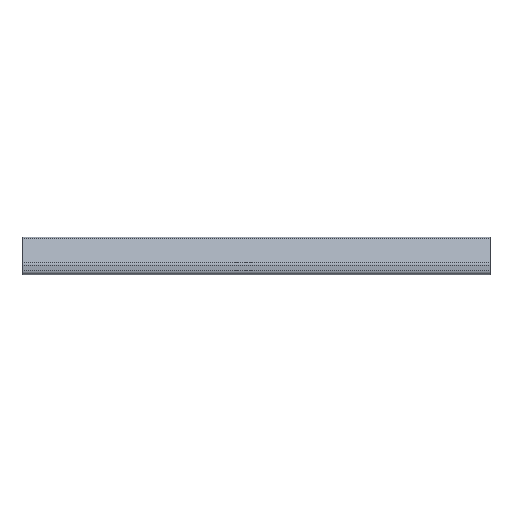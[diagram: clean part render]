
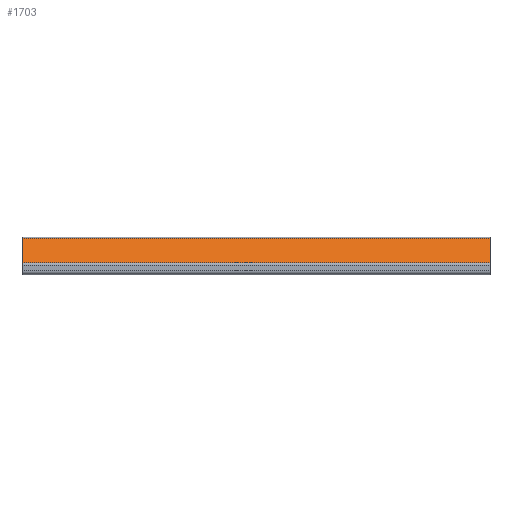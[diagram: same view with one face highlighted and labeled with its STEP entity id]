
A CAD part, top view. The second image highlights one B-rep face of the part: STEP entity #1703.
In plain terms, the highlighted planar face has unit normal (0, 0.707, 0.707).
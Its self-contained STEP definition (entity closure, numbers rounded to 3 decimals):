
#71 = LINE ( 'NONE', #1402, #1827 ) ;
#98 = EDGE_CURVE ( 'NONE', #1337, #2118, #718, .T. ) ;
#115 = EDGE_CURVE ( 'NONE', #1597, #1337, #71, .T. ) ;
#221 = ORIENTED_EDGE ( 'NONE', *, *, #98, .F. ) ;
#226 = EDGE_LOOP ( 'NONE', ( #1943, #221, #482, #2066 ) ) ;
#253 = CARTESIAN_POINT ( 'NONE',  ( 2000., -7.148, 4518.828 ) ) ;
#259 = LINE ( 'NONE', #1604, #1687 ) ;
#293 = CARTESIAN_POINT ( 'NONE',  ( 2000., 18.828, 4492.852 ) ) ;
#388 = DIRECTION ( 'NONE',  ( 0., 0.707, -0.707 ) ) ;
#428 = EDGE_CURVE ( 'NONE', #1597, #751, #506, .T. ) ;
#482 = ORIENTED_EDGE ( 'NONE', *, *, #115, .F. ) ;
#506 = LINE ( 'NONE', #684, #1696 ) ;
#554 = DIRECTION ( 'NONE',  ( 0., -0.707, -0.707 ) ) ;
#599 = CARTESIAN_POINT ( 'NONE',  ( 1500., 18.828, 4492.852 ) ) ;
#604 = DIRECTION ( 'NONE',  ( 0., 0.707, -0.707 ) ) ;
#684 = CARTESIAN_POINT ( 'NONE',  ( 1500., -7.148, 4518.828 ) ) ;
#718 = LINE ( 'NONE', #1391, #1585 ) ;
#751 = VERTEX_POINT ( 'NONE', #253 ) ;
#881 = FACE_OUTER_BOUND ( 'NONE', #226, .T. ) ;
#898 = DIRECTION ( 'NONE',  ( 0., 0.707, -0.707 ) ) ;
#1337 = VERTEX_POINT ( 'NONE', #599 ) ;
#1391 = CARTESIAN_POINT ( 'NONE',  ( 1500., 18.828, 4492.852 ) ) ;
#1402 = CARTESIAN_POINT ( 'NONE',  ( 1500., -7.148, 4518.828 ) ) ;
#1583 = PLANE ( 'NONE',  #1931 ) ;
#1585 = VECTOR ( 'NONE', #2054, 1000. ) ;
#1597 = VERTEX_POINT ( 'NONE', #2161 ) ;
#1604 = CARTESIAN_POINT ( 'NONE',  ( 2000., -7.148, 4518.828 ) ) ;
#1681 = DIRECTION ( 'NONE',  ( 1., 0., 0. ) ) ;
#1687 = VECTOR ( 'NONE', #604, 1000. ) ;
#1696 = VECTOR ( 'NONE', #1681, 1000. ) ;
#1703 = ADVANCED_FACE ( 'NONE', ( #881 ), #1583, .F. ) ;
#1827 = VECTOR ( 'NONE', #898, 1000. ) ;
#1877 = CARTESIAN_POINT ( 'NONE',  ( 1500., -7.148, 4518.828 ) ) ;
#1908 = EDGE_CURVE ( 'NONE', #751, #2118, #259, .T. ) ;
#1931 = AXIS2_PLACEMENT_3D ( 'NONE', #1877, #554, #388 ) ;
#1943 = ORIENTED_EDGE ( 'NONE', *, *, #1908, .T. ) ;
#2054 = DIRECTION ( 'NONE',  ( 1., 0., 0. ) ) ;
#2066 = ORIENTED_EDGE ( 'NONE', *, *, #428, .T. ) ;
#2118 = VERTEX_POINT ( 'NONE', #293 ) ;
#2161 = CARTESIAN_POINT ( 'NONE',  ( 1500., -7.148, 4518.828 ) ) ;
